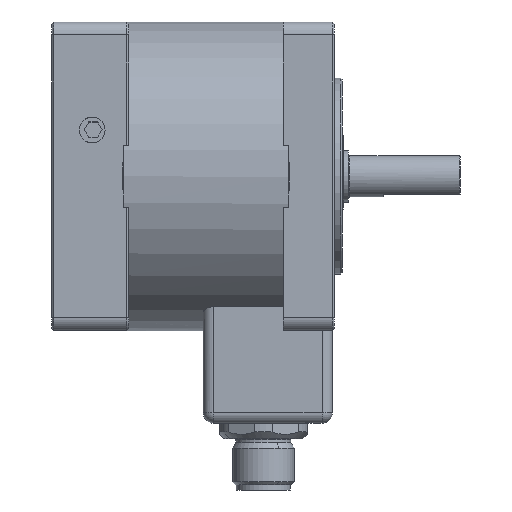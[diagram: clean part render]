
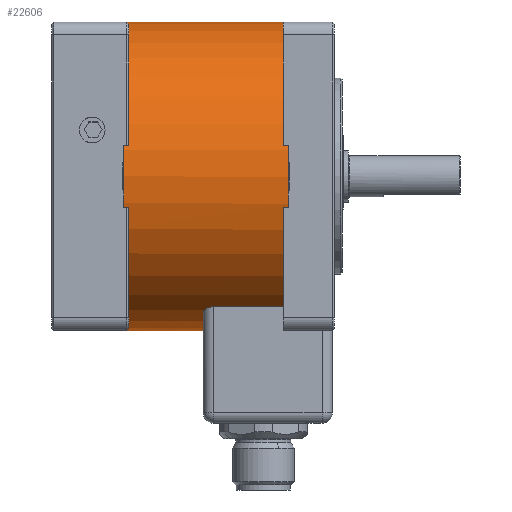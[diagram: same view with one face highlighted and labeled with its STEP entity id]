
A CAD part, left-side view. The second image highlights one B-rep face of the part: STEP entity #22606.
In plain terms, the highlighted cylindrical face has radius 30 mm (diameter 60 mm), a partial arc.
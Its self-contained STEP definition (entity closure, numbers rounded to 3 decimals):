
#465 = EDGE_CURVE ( 'NONE', #33706, #11228, #18572, .T. ) ;
#572 = DIRECTION ( 'NONE',  ( 0., 0., 1. ) ) ;
#895 = EDGE_CURVE ( 'NONE', #51223, #33706, #57845, .T. ) ;
#1444 = CIRCLE ( 'NONE', #39902, 30. ) ;
#2111 = CYLINDRICAL_SURFACE ( 'NONE', #48670, 30. ) ;
#2956 = CARTESIAN_POINT ( 'NONE',  ( -210.638, -69.462, 183.239 ) ) ;
#4026 = VECTOR ( 'NONE', #60862, 1000. ) ;
#6173 = CARTESIAN_POINT ( 'NONE',  ( -211.146, -49.181, 183.32 ) ) ;
#7696 = CARTESIAN_POINT ( 'NONE',  ( -211.146, -71.681, 183.32 ) ) ;
#8777 = CARTESIAN_POINT ( 'NONE',  ( -210.984, -70.378, 183.293 ) ) ;
#8907 = VERTEX_POINT ( 'NONE', #42091 ) ;
#9254 = ORIENTED_EDGE ( 'NONE', *, *, #17751, .T. ) ;
#9777 = CARTESIAN_POINT ( 'NONE',  ( -210.12, -68.629, 183.164 ) ) ;
#11228 = VERTEX_POINT ( 'NONE', #28919 ) ;
#11311 = LINE ( 'NONE', #6173, #54749 ) ;
#13088 = CARTESIAN_POINT ( 'NONE',  ( -206.146, -49.181, 182.901 ) ) ;
#13222 = CARTESIAN_POINT ( 'NONE',  ( -206.804, -66.714, 182.906 ) ) ;
#13380 = CARTESIAN_POINT ( 'NONE',  ( -206.146, -49.181, 242.901 ) ) ;
#13563 = CARTESIAN_POINT ( 'NONE',  ( -210.482, -69.17, 183.215 ) ) ;
#13585 = B_SPLINE_CURVE_WITH_KNOTS ( 'NONE', 3,
 ( #23625, #60358, #13222, #34334, #55182, #40456, #30887, #56866, #45219, #35664, #55851, #24989, #9777, #13563, #2956, #66616, #8777, #30227, #61373, #39786 ),
 .UNSPECIFIED., .F., .F.,
 ( 4, 2, 2, 2, 2, 2, 2, 2, 2, 4 ),
 ( 0.008, 0.009, 0.01, 0.01, 0.011, 0.012, 0.013, 0.014, 0.015, 0.016 ),
 .UNSPECIFIED. ) ;
#17751 = EDGE_CURVE ( 'NONE', #51223, #8907, #60248, .T. ) ;
#18572 = LINE ( 'NONE', #13380, #4026 ) ;
#21866 = EDGE_CURVE ( 'NONE', #60001, #11228, #1444, .T. ) ;
#21886 = CARTESIAN_POINT ( 'NONE',  ( -206.146, -49.181, 212.901 ) ) ;
#22606 = ADVANCED_FACE ( 'NONE', ( #53993 ), #2111, .T. ) ;
#23625 = CARTESIAN_POINT ( 'NONE',  ( -206.146, -66.681, 182.901 ) ) ;
#23878 = AXIS2_PLACEMENT_3D ( 'NONE', #21886, #25743, #572 ) ;
#24989 = CARTESIAN_POINT ( 'NONE',  ( -209.913, -68.377, 183.137 ) ) ;
#25140 = DIRECTION ( 'NONE',  ( 0., 0., -1. ) ) ;
#25743 = DIRECTION ( 'NONE',  ( 0., 1., 0. ) ) ;
#26485 = VERTEX_POINT ( 'NONE', #7696 ) ;
#28795 = ORIENTED_EDGE ( 'NONE', *, *, #21866, .T. ) ;
#28919 = CARTESIAN_POINT ( 'NONE',  ( -206.146, -81.681, 242.901 ) ) ;
#30227 = CARTESIAN_POINT ( 'NONE',  ( -211.113, -71.019, 183.315 ) ) ;
#30887 = CARTESIAN_POINT ( 'NONE',  ( -208.361, -67.196, 182.982 ) ) ;
#33706 = VERTEX_POINT ( 'NONE', #43476 ) ;
#34334 = CARTESIAN_POINT ( 'NONE',  ( -207.445, -66.842, 182.927 ) ) ;
#35664 = CARTESIAN_POINT ( 'NONE',  ( -209.195, -67.705, 183.055 ) ) ;
#37073 = ORIENTED_EDGE ( 'NONE', *, *, #67746, .T. ) ;
#39786 = CARTESIAN_POINT ( 'NONE',  ( -211.146, -71.681, 183.32 ) ) ;
#39902 = AXIS2_PLACEMENT_3D ( 'NONE', #45293, #54892, #50405 ) ;
#40456 = CARTESIAN_POINT ( 'NONE',  ( -208.211, -67.125, 182.971 ) ) ;
#42091 = CARTESIAN_POINT ( 'NONE',  ( -206.146, -66.681, 182.901 ) ) ;
#43476 = CARTESIAN_POINT ( 'NONE',  ( -206.146, -49.181, 242.901 ) ) ;
#45219 = CARTESIAN_POINT ( 'NONE',  ( -208.79, -67.434, 183.017 ) ) ;
#45293 = CARTESIAN_POINT ( 'NONE',  ( -206.146, -81.681, 212.901 ) ) ;
#47231 = VECTOR ( 'NONE', #53343, 1000. ) ;
#47596 = CARTESIAN_POINT ( 'NONE',  ( -206.146, -49.181, 182.901 ) ) ;
#48087 = DIRECTION ( 'NONE',  ( 0., -1., 0. ) ) ;
#48670 = AXIS2_PLACEMENT_3D ( 'NONE', #61197, #50498, #25140 ) ;
#50405 = DIRECTION ( 'NONE',  ( 0., 0., 1. ) ) ;
#50498 = DIRECTION ( 'NONE',  ( 0., -1., 0. ) ) ;
#50942 = ORIENTED_EDGE ( 'NONE', *, *, #895, .F. ) ;
#51223 = VERTEX_POINT ( 'NONE', #47596 ) ;
#53343 = DIRECTION ( 'NONE',  ( 0., -1., 0. ) ) ;
#53993 = FACE_OUTER_BOUND ( 'NONE', #54889, .T. ) ;
#54749 = VECTOR ( 'NONE', #48087, 1000. ) ;
#54889 = EDGE_LOOP ( 'NONE', ( #61010, #50942, #9254, #61506, #37073, #28795 ) ) ;
#54892 = DIRECTION ( 'NONE',  ( 0., 1., 0. ) ) ;
#55182 = CARTESIAN_POINT ( 'NONE',  ( -207.757, -66.936, 182.942 ) ) ;
#55851 = CARTESIAN_POINT ( 'NONE',  ( -209.448, -67.912, 183.082 ) ) ;
#56866 = CARTESIAN_POINT ( 'NONE',  ( -208.65, -67.35, 183.005 ) ) ;
#57845 = CIRCLE ( 'NONE', #23878, 30. ) ;
#60001 = VERTEX_POINT ( 'NONE', #63238 ) ;
#60248 = LINE ( 'NONE', #13088, #47231 ) ;
#60358 = CARTESIAN_POINT ( 'NONE',  ( -206.472, -66.681, 182.901 ) ) ;
#60862 = DIRECTION ( 'NONE',  ( 0., -1., 0. ) ) ;
#61010 = ORIENTED_EDGE ( 'NONE', *, *, #465, .F. ) ;
#61197 = CARTESIAN_POINT ( 'NONE',  ( -206.146, -49.181, 212.901 ) ) ;
#61373 = CARTESIAN_POINT ( 'NONE',  ( -211.146, -71.35, 183.32 ) ) ;
#61506 = ORIENTED_EDGE ( 'NONE', *, *, #62329, .T. ) ;
#62329 = EDGE_CURVE ( 'NONE', #8907, #26485, #13585, .T. ) ;
#63238 = CARTESIAN_POINT ( 'NONE',  ( -211.146, -81.681, 183.32 ) ) ;
#66616 = CARTESIAN_POINT ( 'NONE',  ( -210.889, -70.066, 183.278 ) ) ;
#67746 = EDGE_CURVE ( 'NONE', #26485, #60001, #11311, .T. ) ;
